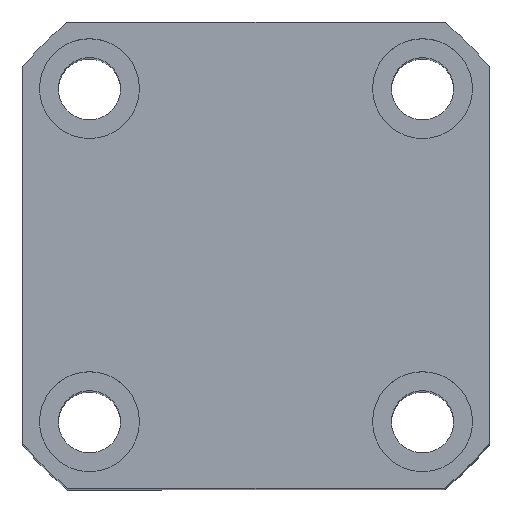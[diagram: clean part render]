
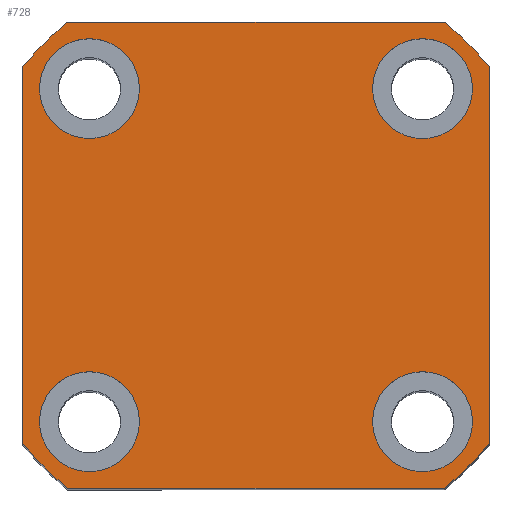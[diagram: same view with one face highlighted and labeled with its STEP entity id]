
A CAD part, top view. The second image highlights one B-rep face of the part: STEP entity #728.
In plain terms, the highlighted planar face has unit normal (0, 0, 1).
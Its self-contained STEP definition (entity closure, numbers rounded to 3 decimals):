
#117 = DIRECTION ( 'NONE',  ( 0., 0., 1. ) ) ;
#146 = LINE ( 'NONE', #4254, #2338 ) ;
#195 = DIRECTION ( 'NONE',  ( 1., 0., 0. ) ) ;
#226 = DIRECTION ( 'NONE',  ( 1., 0., 0. ) ) ;
#238 = ORIENTED_EDGE ( 'NONE', *, *, #375, .F. ) ;
#246 = FACE_OUTER_BOUND ( 'NONE', #6932, .T. ) ;
#375 = EDGE_CURVE ( 'NONE', #8879, #3069, #2318, .T. ) ;
#728 = ADVANCED_FACE ( 'NONE', ( #776, #7015, #2437, #8710, #246 ), #9690, .T. ) ;
#760 = VECTOR ( 'NONE', #4926, 1000. ) ;
#774 = CARTESIAN_POINT ( 'NONE',  ( -19.5, 15.002, 88. ) ) ;
#776 = FACE_BOUND ( 'NONE', #3996, .T. ) ;
#823 = AXIS2_PLACEMENT_3D ( 'NONE', #5665, #117, #976 ) ;
#939 = CARTESIAN_POINT ( 'NONE',  ( 21., 21., 88. ) ) ;
#976 = DIRECTION ( 'NONE',  ( 1., 0., 0. ) ) ;
#1027 = DIRECTION ( 'NONE',  ( 0., 0., 1. ) ) ;
#1139 = EDGE_CURVE ( 'NONE', #5475, #5073, #9611, .T. ) ;
#1310 = CARTESIAN_POINT ( 'NONE',  ( -15., 15.002, 88. ) ) ;
#1462 = AXIS2_PLACEMENT_3D ( 'NONE', #9603, #4672, #10420 ) ;
#1531 = CARTESIAN_POINT ( 'NONE',  ( 21., -16.971, 88. ) ) ;
#1584 = ORIENTED_EDGE ( 'NONE', *, *, #2012, .F. ) ;
#1618 = CARTESIAN_POINT ( 'NONE',  ( 16.971, -21., 88. ) ) ;
#1622 = AXIS2_PLACEMENT_3D ( 'NONE', #6532, #1686, #7363 ) ;
#1627 = CARTESIAN_POINT ( 'NONE',  ( -21., -16.971, 88. ) ) ;
#1686 = DIRECTION ( 'NONE',  ( 0., 0., 1. ) ) ;
#1819 = DIRECTION ( 'NONE',  ( 0., 0., 1. ) ) ;
#1994 = VERTEX_POINT ( 'NONE', #1618 ) ;
#2012 = EDGE_CURVE ( 'NONE', #9544, #6987, #8148, .T. ) ;
#2085 = VERTEX_POINT ( 'NONE', #9878 ) ;
#2128 = DIRECTION ( 'NONE',  ( 1., 0., 0. ) ) ;
#2161 = EDGE_CURVE ( 'NONE', #9801, #2329, #9834, .T. ) ;
#2243 = EDGE_LOOP ( 'NONE', ( #9625, #4643 ) ) ;
#2262 = CIRCLE ( 'NONE', #1462, 4.5 ) ;
#2267 = DIRECTION ( 'NONE',  ( 0., 0., 1. ) ) ;
#2318 = CIRCLE ( 'NONE', #7206, 4.5 ) ;
#2329 = VERTEX_POINT ( 'NONE', #9491 ) ;
#2338 = VECTOR ( 'NONE', #8344, 1000. ) ;
#2437 = FACE_BOUND ( 'NONE', #9412, .T. ) ;
#2541 = VERTEX_POINT ( 'NONE', #1531 ) ;
#2618 = ORIENTED_EDGE ( 'NONE', *, *, #4065, .T. ) ;
#2680 = LINE ( 'NONE', #939, #760 ) ;
#2827 = CARTESIAN_POINT ( 'NONE',  ( 0., 0., 88. ) ) ;
#3005 = VERTEX_POINT ( 'NONE', #10469 ) ;
#3069 = VERTEX_POINT ( 'NONE', #7229 ) ;
#3096 = CARTESIAN_POINT ( 'NONE',  ( -15., -14.998, 88. ) ) ;
#3191 = CARTESIAN_POINT ( 'NONE',  ( 19.5, 15., 88. ) ) ;
#3316 = VERTEX_POINT ( 'NONE', #8587 ) ;
#3364 = EDGE_CURVE ( 'NONE', #3069, #8879, #6571, .T. ) ;
#3430 = AXIS2_PLACEMENT_3D ( 'NONE', #10012, #5071, #195 ) ;
#3459 = AXIS2_PLACEMENT_3D ( 'NONE', #7115, #2267, #7976 ) ;
#3547 = EDGE_CURVE ( 'NONE', #6335, #3571, #10463, .T. ) ;
#3571 = VERTEX_POINT ( 'NONE', #10475 ) ;
#3639 = DIRECTION ( 'NONE',  ( 1., 0., 0. ) ) ;
#3727 = ORIENTED_EDGE ( 'NONE', *, *, #8331, .F. ) ;
#3781 = CARTESIAN_POINT ( 'NONE',  ( 19.5, -14.998, 88. ) ) ;
#3876 = DIRECTION ( 'NONE',  ( -1., 0., 0. ) ) ;
#3912 = DIRECTION ( 'NONE',  ( 1., 0., 0. ) ) ;
#3996 = EDGE_LOOP ( 'NONE', ( #6938, #238 ) ) ;
#4001 = AXIS2_PLACEMENT_3D ( 'NONE', #1310, #6975, #2128 ) ;
#4004 = EDGE_CURVE ( 'NONE', #3571, #6335, #4033, .T. ) ;
#4033 = CIRCLE ( 'NONE', #4348, 4.5 ) ;
#4065 = EDGE_CURVE ( 'NONE', #9300, #5475, #10082, .T. ) ;
#4254 = CARTESIAN_POINT ( 'NONE',  ( -21., -21., 88. ) ) ;
#4283 = ORIENTED_EDGE ( 'NONE', *, *, #6104, .T. ) ;
#4348 = AXIS2_PLACEMENT_3D ( 'NONE', #6666, #1819, #7508 ) ;
#4433 = DIRECTION ( 'NONE',  ( 1., 0., 0. ) ) ;
#4468 = LINE ( 'NONE', #10444, #4710 ) ;
#4557 = AXIS2_PLACEMENT_3D ( 'NONE', #3096, #8820, #3912 ) ;
#4643 = ORIENTED_EDGE ( 'NONE', *, *, #3547, .F. ) ;
#4672 = DIRECTION ( 'NONE',  ( 0., 0., 1. ) ) ;
#4710 = VECTOR ( 'NONE', #3876, 1000. ) ;
#4867 = DIRECTION ( 'NONE',  ( 0., 0., 1. ) ) ;
#4926 = DIRECTION ( 'NONE',  ( 0., 1., 0. ) ) ;
#5017 = ORIENTED_EDGE ( 'NONE', *, *, #9153, .T. ) ;
#5071 = DIRECTION ( 'NONE',  ( 0., 0., 1. ) ) ;
#5073 = VERTEX_POINT ( 'NONE', #1627 ) ;
#5111 = DIRECTION ( 'NONE',  ( 0., 0., 1. ) ) ;
#5200 = CARTESIAN_POINT ( 'NONE',  ( -21., 16.971, 88. ) ) ;
#5279 = ORIENTED_EDGE ( 'NONE', *, *, #2161, .F. ) ;
#5301 = CARTESIAN_POINT ( 'NONE',  ( -19.5, -14.998, 88. ) ) ;
#5475 = VERTEX_POINT ( 'NONE', #5200 ) ;
#5665 = CARTESIAN_POINT ( 'NONE',  ( 0., 0., 88. ) ) ;
#5694 = CIRCLE ( 'NONE', #3459, 27. ) ;
#5757 = EDGE_CURVE ( 'NONE', #6987, #9544, #2262, .T. ) ;
#5867 = CARTESIAN_POINT ( 'NONE',  ( 15., 15., 88. ) ) ;
#5904 = ORIENTED_EDGE ( 'NONE', *, *, #5757, .F. ) ;
#6019 = ORIENTED_EDGE ( 'NONE', *, *, #8619, .T. ) ;
#6104 = EDGE_CURVE ( 'NONE', #5073, #2085, #7822, .T. ) ;
#6237 = AXIS2_PLACEMENT_3D ( 'NONE', #9804, #4867, #10620 ) ;
#6335 = VERTEX_POINT ( 'NONE', #5301 ) ;
#6510 = AXIS2_PLACEMENT_3D ( 'NONE', #10051, #5111, #226 ) ;
#6532 = CARTESIAN_POINT ( 'NONE',  ( 15., 15., 88. ) ) ;
#6571 = CIRCLE ( 'NONE', #4001, 4.5 ) ;
#6666 = CARTESIAN_POINT ( 'NONE',  ( -15., -14.998, 88. ) ) ;
#6677 = DIRECTION ( 'NONE',  ( 1., 0., 0. ) ) ;
#6808 = EDGE_CURVE ( 'NONE', #3316, #9300, #4468, .T. ) ;
#6841 = CIRCLE ( 'NONE', #1622, 4.5 ) ;
#6932 = EDGE_LOOP ( 'NONE', ( #7460, #6019, #8647, #2618, #7056, #4283, #5017, #6934 ) ) ;
#6934 = ORIENTED_EDGE ( 'NONE', *, *, #8093, .T. ) ;
#6938 = ORIENTED_EDGE ( 'NONE', *, *, #3364, .F. ) ;
#6975 = DIRECTION ( 'NONE',  ( 0., 0., 1. ) ) ;
#6987 = VERTEX_POINT ( 'NONE', #7315 ) ;
#7015 = FACE_BOUND ( 'NONE', #2243, .T. ) ;
#7056 = ORIENTED_EDGE ( 'NONE', *, *, #1139, .T. ) ;
#7061 = EDGE_CURVE ( 'NONE', #2541, #3005, #2680, .T. ) ;
#7115 = CARTESIAN_POINT ( 'NONE',  ( 0., 0., 88. ) ) ;
#7126 = VECTOR ( 'NONE', #9604, 1000. ) ;
#7206 = AXIS2_PLACEMENT_3D ( 'NONE', #9233, #9088, #4433 ) ;
#7229 = CARTESIAN_POINT ( 'NONE',  ( -10.5, 15.002, 88. ) ) ;
#7315 = CARTESIAN_POINT ( 'NONE',  ( 10.5, -14.998, 88. ) ) ;
#7363 = DIRECTION ( 'NONE',  ( 1., 0., 0. ) ) ;
#7460 = ORIENTED_EDGE ( 'NONE', *, *, #7061, .T. ) ;
#7508 = DIRECTION ( 'NONE',  ( 1., 0., 0. ) ) ;
#7700 = CARTESIAN_POINT ( 'NONE',  ( -16.971, 21., 88. ) ) ;
#7822 = CIRCLE ( 'NONE', #3430, 27. ) ;
#7976 = DIRECTION ( 'NONE',  ( 1., 0., 0. ) ) ;
#7979 = CARTESIAN_POINT ( 'NONE',  ( -21., 21., 88. ) ) ;
#8093 = EDGE_CURVE ( 'NONE', #1994, #2541, #5694, .T. ) ;
#8148 = CIRCLE ( 'NONE', #6237, 4.5 ) ;
#8331 = EDGE_CURVE ( 'NONE', #2329, #9801, #6841, .T. ) ;
#8344 = DIRECTION ( 'NONE',  ( 1., 0., 0. ) ) ;
#8535 = DIRECTION ( 'NONE',  ( 0., 0., 1. ) ) ;
#8587 = CARTESIAN_POINT ( 'NONE',  ( 16.971, 21., 88. ) ) ;
#8619 = EDGE_CURVE ( 'NONE', #3005, #3316, #9242, .T. ) ;
#8647 = ORIENTED_EDGE ( 'NONE', *, *, #6808, .T. ) ;
#8710 = FACE_BOUND ( 'NONE', #9914, .T. ) ;
#8746 = AXIS2_PLACEMENT_3D ( 'NONE', #2827, #8535, #3639 ) ;
#8820 = DIRECTION ( 'NONE',  ( 0., 0., 1. ) ) ;
#8879 = VERTEX_POINT ( 'NONE', #774 ) ;
#9088 = DIRECTION ( 'NONE',  ( 0., 0., 1. ) ) ;
#9153 = EDGE_CURVE ( 'NONE', #2085, #1994, #146, .T. ) ;
#9233 = CARTESIAN_POINT ( 'NONE',  ( -15., 15.002, 88. ) ) ;
#9242 = CIRCLE ( 'NONE', #8746, 27. ) ;
#9300 = VERTEX_POINT ( 'NONE', #7700 ) ;
#9412 = EDGE_LOOP ( 'NONE', ( #1584, #5904 ) ) ;
#9491 = CARTESIAN_POINT ( 'NONE',  ( 10.5, 15., 88. ) ) ;
#9544 = VERTEX_POINT ( 'NONE', #3781 ) ;
#9603 = CARTESIAN_POINT ( 'NONE',  ( 15., -14.998, 88. ) ) ;
#9604 = DIRECTION ( 'NONE',  ( 0., -1., 0. ) ) ;
#9611 = LINE ( 'NONE', #7979, #7126 ) ;
#9625 = ORIENTED_EDGE ( 'NONE', *, *, #4004, .F. ) ;
#9690 = PLANE ( 'NONE',  #823 ) ;
#9801 = VERTEX_POINT ( 'NONE', #3191 ) ;
#9804 = CARTESIAN_POINT ( 'NONE',  ( 15., -14.998, 88. ) ) ;
#9834 = CIRCLE ( 'NONE', #10125, 4.5 ) ;
#9878 = CARTESIAN_POINT ( 'NONE',  ( -16.971, -21., 88. ) ) ;
#9914 = EDGE_LOOP ( 'NONE', ( #5279, #3727 ) ) ;
#10012 = CARTESIAN_POINT ( 'NONE',  ( 0., 0., 88. ) ) ;
#10051 = CARTESIAN_POINT ( 'NONE',  ( 0., 0., 88. ) ) ;
#10082 = CIRCLE ( 'NONE', #6510, 27. ) ;
#10125 = AXIS2_PLACEMENT_3D ( 'NONE', #5867, #1027, #6677 ) ;
#10420 = DIRECTION ( 'NONE',  ( 1., 0., 0. ) ) ;
#10444 = CARTESIAN_POINT ( 'NONE',  ( -21., 21., 88. ) ) ;
#10463 = CIRCLE ( 'NONE', #4557, 4.5 ) ;
#10469 = CARTESIAN_POINT ( 'NONE',  ( 21., 16.971, 88. ) ) ;
#10475 = CARTESIAN_POINT ( 'NONE',  ( -10.5, -14.998, 88. ) ) ;
#10620 = DIRECTION ( 'NONE',  ( 1., 0., 0. ) ) ;
